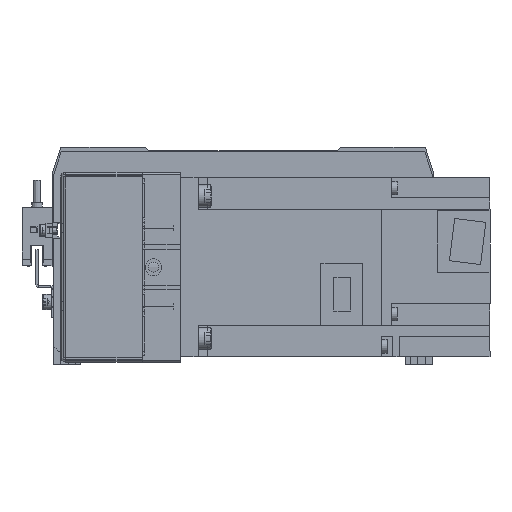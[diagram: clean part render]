
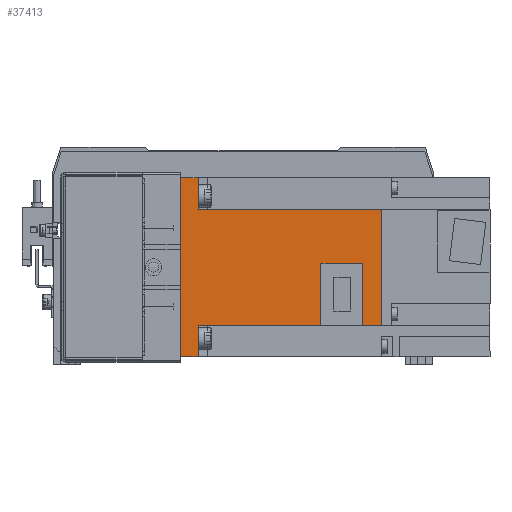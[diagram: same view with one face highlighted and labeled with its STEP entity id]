
A CAD part, front view. The second image highlights one B-rep face of the part: STEP entity #37413.
In plain terms, the highlighted planar face has unit normal (0, -1, 0) as drawn and (1, 0, 0) by its records, which use the part's own axes.
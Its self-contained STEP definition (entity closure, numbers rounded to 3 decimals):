
#92 = EDGE_CURVE ( 'NONE', #1129, #38552, #32103, .T. ) ;
#431 = VECTOR ( 'NONE', #39825, 1000. ) ;
#784 = CARTESIAN_POINT ( 'NONE',  ( 40., 8., 25.95 ) ) ;
#1010 = ORIENTED_EDGE ( 'NONE', *, *, #24027, .F. ) ;
#1067 = CARTESIAN_POINT ( 'NONE',  ( 40., 0., 0. ) ) ;
#1129 = VERTEX_POINT ( 'NONE', #8669 ) ;
#1218 = ORIENTED_EDGE ( 'NONE', *, *, #43195, .F. ) ;
#2104 = LINE ( 'NONE', #7353, #32332 ) ;
#2369 = FACE_OUTER_BOUND ( 'NONE', #42262, .T. ) ;
#2388 = DIRECTION ( 'NONE',  ( 0., 0., -1. ) ) ;
#3190 = CARTESIAN_POINT ( 'NONE',  ( 40., 89.8, 40. ) ) ;
#3244 = VECTOR ( 'NONE', #34005, 1000. ) ;
#3500 = LINE ( 'NONE', #33531, #30101 ) ;
#3542 = CARTESIAN_POINT ( 'NONE',  ( 40., 8., 40. ) ) ;
#3575 = CARTESIAN_POINT ( 'NONE',  ( 40., 62.8, -25.95 ) ) ;
#3631 = VECTOR ( 'NONE', #21567, 1000. ) ;
#4444 = VECTOR ( 'NONE', #2388, 1000. ) ;
#5488 = VERTEX_POINT ( 'NONE', #35592 ) ;
#6387 = DIRECTION ( 'NONE',  ( -1., 0., 0. ) ) ;
#6648 = CARTESIAN_POINT ( 'NONE',  ( 40., 81.4, -25.95 ) ) ;
#7353 = CARTESIAN_POINT ( 'NONE',  ( 40., 89.8, -25.95 ) ) ;
#7879 = CARTESIAN_POINT ( 'NONE',  ( 40., 62.8, 40. ) ) ;
#7899 = VECTOR ( 'NONE', #32922, 1000. ) ;
#8669 = CARTESIAN_POINT ( 'NONE',  ( 40., 89.8, 25.95 ) ) ;
#8675 = CARTESIAN_POINT ( 'NONE',  ( 40., 89.8, 40. ) ) ;
#8786 = DIRECTION ( 'NONE',  ( 0., 0., 1. ) ) ;
#9105 = VECTOR ( 'NONE', #17656, 1000. ) ;
#9411 = ORIENTED_EDGE ( 'NONE', *, *, #33070, .F. ) ;
#9782 = EDGE_CURVE ( 'NONE', #43045, #38442, #25244, .T. ) ;
#10337 = ORIENTED_EDGE ( 'NONE', *, *, #9782, .F. ) ;
#10819 = CARTESIAN_POINT ( 'NONE',  ( 40., 89.8, -40. ) ) ;
#11016 = CARTESIAN_POINT ( 'NONE',  ( 40., 89.8, -25.95 ) ) ;
#11883 = EDGE_CURVE ( 'NONE', #5488, #36352, #19342, .T. ) ;
#11988 = CARTESIAN_POINT ( 'NONE',  ( 40., 81.4, 40. ) ) ;
#12238 = DIRECTION ( 'NONE',  ( 0., -1., 0. ) ) ;
#12827 = CARTESIAN_POINT ( 'NONE',  ( 40., 8., -25.95 ) ) ;
#12871 = AXIS2_PLACEMENT_3D ( 'NONE', #23004, #6387, #42944 ) ;
#12936 = PLANE ( 'NONE',  #12871 ) ;
#13586 = EDGE_CURVE ( 'NONE', #36352, #33133, #36419, .T. ) ;
#14236 = VERTEX_POINT ( 'NONE', #3575 ) ;
#14875 = EDGE_CURVE ( 'NONE', #38442, #14236, #39546, .T. ) ;
#15592 = CARTESIAN_POINT ( 'NONE',  ( 40., 89.8, 1.8 ) ) ;
#16806 = LINE ( 'NONE', #1067, #3244 ) ;
#16951 = VECTOR ( 'NONE', #17400, 1000. ) ;
#17400 = DIRECTION ( 'NONE',  ( 0., 0., -1. ) ) ;
#17517 = DIRECTION ( 'NONE',  ( 0., 1., 0. ) ) ;
#17656 = DIRECTION ( 'NONE',  ( 0., 1., 0. ) ) ;
#18460 = ORIENTED_EDGE ( 'NONE', *, *, #14875, .F. ) ;
#19342 = LINE ( 'NONE', #3190, #7899 ) ;
#21055 = VECTOR ( 'NONE', #12238, 1000. ) ;
#21156 = EDGE_CURVE ( 'NONE', #42391, #37368, #41425, .T. ) ;
#21329 = VECTOR ( 'NONE', #17517, 1000. ) ;
#21567 = DIRECTION ( 'NONE',  ( 0., 0., -1. ) ) ;
#22972 = ORIENTED_EDGE ( 'NONE', *, *, #39085, .T. ) ;
#23004 = CARTESIAN_POINT ( 'NONE',  ( 40., 89.8, 40. ) ) ;
#23183 = LINE ( 'NONE', #10819, #9105 ) ;
#24027 = EDGE_CURVE ( 'NONE', #33133, #1129, #41120, .T. ) ;
#24702 = ORIENTED_EDGE ( 'NONE', *, *, #21156, .F. ) ;
#25244 = LINE ( 'NONE', #15592, #21055 ) ;
#29668 = CARTESIAN_POINT ( 'NONE',  ( 40., 0., -40. ) ) ;
#30101 = VECTOR ( 'NONE', #39331, 1000. ) ;
#30519 = ORIENTED_EDGE ( 'NONE', *, *, #13586, .F. ) ;
#30666 = EDGE_CURVE ( 'NONE', #31468, #37368, #23183, .T. ) ;
#30912 = CARTESIAN_POINT ( 'NONE',  ( 40., 8., 40. ) ) ;
#31468 = VERTEX_POINT ( 'NONE', #29668 ) ;
#31500 = VERTEX_POINT ( 'NONE', #6648 ) ;
#32103 = LINE ( 'NONE', #8675, #4444 ) ;
#32157 = ORIENTED_EDGE ( 'NONE', *, *, #11883, .F. ) ;
#32332 = VECTOR ( 'NONE', #40256, 1000. ) ;
#32922 = DIRECTION ( 'NONE',  ( 0., 1., 0. ) ) ;
#32963 = CARTESIAN_POINT ( 'NONE',  ( 40., 8., 40. ) ) ;
#33070 = EDGE_CURVE ( 'NONE', #14236, #42391, #2104, .T. ) ;
#33133 = VERTEX_POINT ( 'NONE', #784 ) ;
#33531 = CARTESIAN_POINT ( 'NONE',  ( 40., 89.8, -25.95 ) ) ;
#34005 = DIRECTION ( 'NONE',  ( 0., 0., -1. ) ) ;
#34054 = CARTESIAN_POINT ( 'NONE',  ( 40., 81.4, 1.8 ) ) ;
#35418 = CARTESIAN_POINT ( 'NONE',  ( 40., 8., -40. ) ) ;
#35592 = CARTESIAN_POINT ( 'NONE',  ( 40., 0., 40. ) ) ;
#36352 = VERTEX_POINT ( 'NONE', #3542 ) ;
#36419 = LINE ( 'NONE', #32963, #431 ) ;
#37368 = VERTEX_POINT ( 'NONE', #35418 ) ;
#37413 = ADVANCED_FACE ( 'NONE', ( #2369 ), #12936, .F. ) ;
#37465 = CARTESIAN_POINT ( 'NONE',  ( 40., 89.8, 25.95 ) ) ;
#37500 = ORIENTED_EDGE ( 'NONE', *, *, #92, .F. ) ;
#37543 = CARTESIAN_POINT ( 'NONE',  ( 40., 62.8, 1.8 ) ) ;
#38442 = VERTEX_POINT ( 'NONE', #37543 ) ;
#38552 = VERTEX_POINT ( 'NONE', #11016 ) ;
#38972 = LINE ( 'NONE', #11988, #41563 ) ;
#39085 = EDGE_CURVE ( 'NONE', #5488, #31468, #16806, .T. ) ;
#39331 = DIRECTION ( 'NONE',  ( 0., -1., 0. ) ) ;
#39478 = ORIENTED_EDGE ( 'NONE', *, *, #30666, .T. ) ;
#39546 = LINE ( 'NONE', #7879, #3631 ) ;
#39825 = DIRECTION ( 'NONE',  ( 0., 0., -1. ) ) ;
#40162 = ORIENTED_EDGE ( 'NONE', *, *, #42401, .F. ) ;
#40256 = DIRECTION ( 'NONE',  ( 0., -1., 0. ) ) ;
#41120 = LINE ( 'NONE', #37465, #21329 ) ;
#41425 = LINE ( 'NONE', #30912, #16951 ) ;
#41563 = VECTOR ( 'NONE', #8786, 1000. ) ;
#42262 = EDGE_LOOP ( 'NONE', ( #40162, #37500, #1010, #30519, #32157, #22972, #39478, #24702, #9411, #18460, #10337, #1218 ) ) ;
#42391 = VERTEX_POINT ( 'NONE', #12827 ) ;
#42401 = EDGE_CURVE ( 'NONE', #38552, #31500, #3500, .T. ) ;
#42944 = DIRECTION ( 'NONE',  ( 0., 0., 1. ) ) ;
#43045 = VERTEX_POINT ( 'NONE', #34054 ) ;
#43195 = EDGE_CURVE ( 'NONE', #31500, #43045, #38972, .T. ) ;
